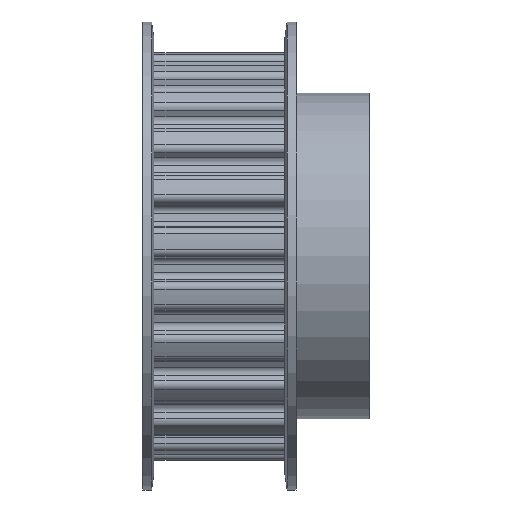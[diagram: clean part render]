
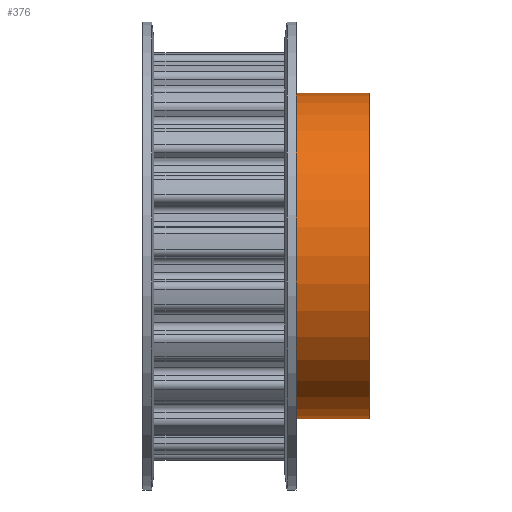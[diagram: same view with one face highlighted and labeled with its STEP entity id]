
A CAD part, top view. The second image highlights one B-rep face of the part: STEP entity #376.
In plain terms, the highlighted cylindrical face has radius 27.5 mm (diameter 55 mm), a partial arc.
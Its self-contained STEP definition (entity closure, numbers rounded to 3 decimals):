
#376 = ADVANCED_FACE( '', ( #988 ), #989, .T. );
#988 = FACE_OUTER_BOUND( '', #1603, .T. );
#989 = CYLINDRICAL_SURFACE( '', #1604, 27.5 );
#1603 = EDGE_LOOP( '', ( #4544, #4545, #4546, #4547 ) );
#1604 = AXIS2_PLACEMENT_3D( '', #4548, #4549, #4550 );
#4544 = ORIENTED_EDGE( '', *, *, #4656, .T. );
#4545 = ORIENTED_EDGE( '', *, *, #5348, .F. );
#4546 = ORIENTED_EDGE( '', *, *, #4658, .T. );
#4547 = ORIENTED_EDGE( '', *, *, #5722, .T. );
#4548 = CARTESIAN_POINT( '', ( 31.7, 0., 0. ) );
#4549 = DIRECTION( '', ( 1., 0., 0. ) );
#4550 = DIRECTION( '', ( 0., 1., 0. ) );
#4656 = EDGE_CURVE( '', #5723, #5724, #5725, .T. );
#4658 = EDGE_CURVE( '', #5728, #5726, #5729, .T. );
#5348 = EDGE_CURVE( '', #5728, #5724, #6962, .T. );
#5722 = EDGE_CURVE( '', #5726, #5723, #7467, .T. );
#5723 = VERTEX_POINT( '', #7468 );
#5724 = VERTEX_POINT( '', #7469 );
#5725 = LINE( '', #7470, #7471 );
#5726 = VERTEX_POINT( '', #7472 );
#5728 = VERTEX_POINT( '', #7474 );
#5729 = LINE( '', #7475, #7476 );
#6962 = CIRCLE( '', #8972, 27.5 );
#7467 = CIRCLE( '', #9739, 27.5 );
#7468 = CARTESIAN_POINT( '', ( 38., 27.5, 0. ) );
#7469 = CARTESIAN_POINT( '', ( 25.4, 27.5, 0. ) );
#7470 = CARTESIAN_POINT( '', ( 31.7, 27.5, 0. ) );
#7471 = VECTOR( '', #9740, 1. );
#7472 = CARTESIAN_POINT( '', ( 38., -27.5, 0. ) );
#7474 = CARTESIAN_POINT( '', ( 25.4, -27.5, 0. ) );
#7475 = CARTESIAN_POINT( '', ( 31.7, -27.5, 0. ) );
#7476 = VECTOR( '', #9744, 1. );
#8972 = AXIS2_PLACEMENT_3D( '', #11286, #11287, #11288 );
#9739 = AXIS2_PLACEMENT_3D( '', #11884, #11885, #11886 );
#9740 = DIRECTION( '', ( -1., 0., 0. ) );
#9744 = DIRECTION( '', ( 1., 0., 0. ) );
#11286 = CARTESIAN_POINT( '', ( 25.4, 0., 0. ) );
#11287 = DIRECTION( '', ( -1., 0., 0. ) );
#11288 = DIRECTION( '', ( 0., 1., 0. ) );
#11884 = CARTESIAN_POINT( '', ( 38., 0., 0. ) );
#11885 = DIRECTION( '', ( -1., 0., 0. ) );
#11886 = DIRECTION( '', ( 0., 1., 0. ) );
